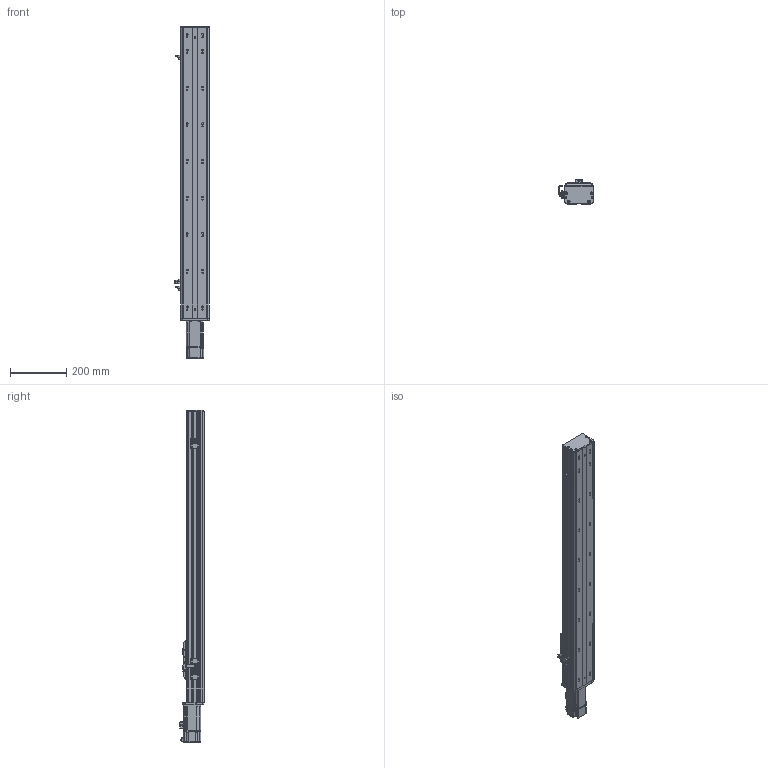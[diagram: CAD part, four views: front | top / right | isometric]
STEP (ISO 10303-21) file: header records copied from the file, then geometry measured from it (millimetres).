
FILE_DESCRIPTION (( 'STEP AP203' ), '1' );
FILE_NAME ('BOSW100-800-1610-1P-CM-M400W-O-S3（方程式2016）.step', '2020-10-10T06:36:10', ( '' ), ( '' ), 'SwSTEP 2.0', 'SolidWorks 2016', '' );
FILE_SCHEMA (( 'CONFIG_CONTROL_DESIGN' ));
Length unit declared in the file: millimetre
Products named in the file (13): BOSW-100-1P-CM-宽轨-侧板-800客户图纸; BOSW-100-CM-宽轨-三菱M200W&400W马达板(新结构); BOSW&TW-100-1P-賑雄釱欶; BOSW&TW-100-俋离覜茼え; BOSW&TW-100-詩湍揤沭(陔賦凳); 放大器内置U型微型光电传感器PM-L65; BOSW-100-1P-CM-宽轨-钢带-800客户图纸; BOSW-100-1P-CM-800諦誧芞; 新结构AIMSW-100-1P-宽&高轨共用-滑动座上组件; BOSW-100-綴裔啣; 俋境嫖覜嘐隅啣; S400W(SMA-L040); BOSW100-800-1610-1P-CM-M400W-O-S3（方程式2016）
Assembly tree (18 placements, depth 2):
  BOSW100-800-1610-1P-CM-M400W-O-S3（方程式2016）
    BOSW-100-1P-CM-800諦誧芞
    BOSW-100-綴裔啣
    新结构AIMSW-100-1P-宽&高轨共用-滑动座上组件
    S400W(SMA-L040)
    BOSW&TW-100-詩湍揤沭(陔賦凳)  x2
    BOSW&TW-100-1P-賑雄釱欶
    BOSW&TW-100-俋离覜茼え
    俋境嫖覜嘐隅啣  x3
    放大器内置U型微型光电传感器PM-L65  x3
    BOSW-100-CM-宽轨-三菱M200W&400W马达板(新结构)
    BOSW-100-1P-CM-宽轨-侧板-800客户图纸  x2
    BOSW-100-1P-CM-宽轨-钢带-800客户图纸
Bounding box: 120.9 x 85.5 x 1177.8 mm (x, y, z)
Volume: 2302949.2 mm3; surface area: 1030769.1 mm2
Topology: 18 solids, 18 shells, 2537 faces, 6702 edges, 4277 vertices
Faces by surface type: plane 1228, cylinder 825, bspline 271, cone 165, torus 36, sphere 12
Entity records: 69680 total; most frequent: CARTESIAN_POINT 20876, ORIENTED_EDGE 9944, DIRECTION 9674, EDGE_CURVE 4972, AXIS2_PLACEMENT_3D 3460, VERTEX_POINT 3179, VECTOR 2754, LINE 2754
